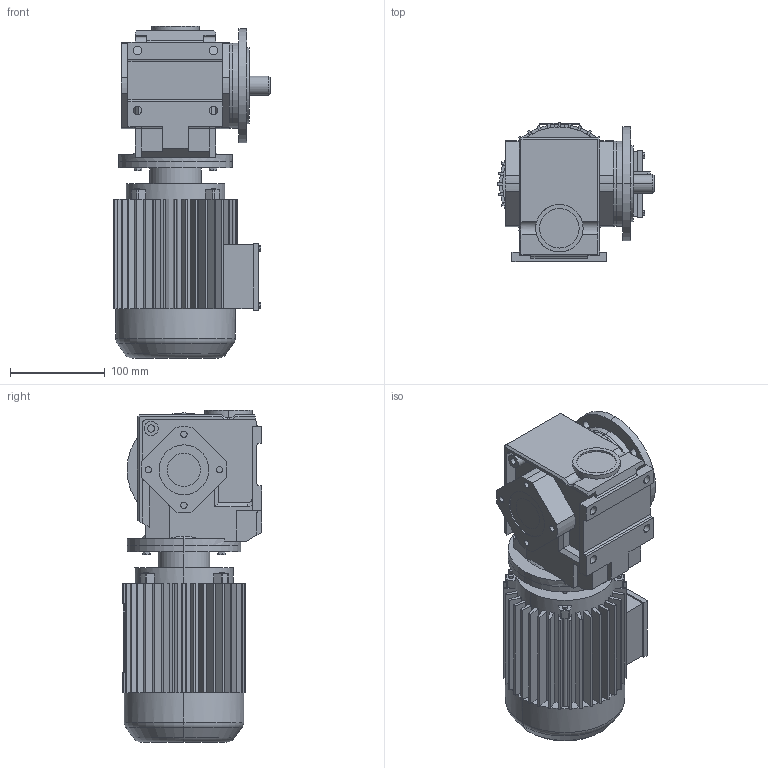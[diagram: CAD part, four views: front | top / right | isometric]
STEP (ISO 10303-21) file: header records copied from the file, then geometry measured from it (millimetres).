
FILE_DESCRIPTION(('Open CASCADE Model'),'2;1');
FILE_NAME('Open CASCADE Shape Model','2021-07-20T10:52:45',('Author'),( 'Open CASCADE'),'Open CASCADE STEP processor 6.3','Open CASCADE 6.3' ,'Unknown');
FILE_SCHEMA(('AUTOMOTIVE_DESIGN_CC2 { 1 2 10303 214 -1 1 5 4 }'));
Length unit declared in the file: millimetre
Products named in the file (5): 1_SF37-Y63S-120-A; SA37_37.step; 萇儂_120_Y63S.step; す瑩妗陑粣S_37_S.step; 楊擘S_37_120_SF.step
Assembly tree (4 placements, depth 2):
  1_SF37-Y63S-120-A
    SA37_37.step
    萇儂_120_Y63S.step
    す瑩妗陑粣S_37_S.step
    楊擘S_37_120_SF.step
Bounding box: 165 x 147 x 350 mm (x, y, z)
Volume: 3843659.7 mm3; surface area: 391378 mm2
Topology: 4 solids, 4 shells, 677 faces, 1762 edges, 1133 vertices
Faces by surface type: plane 445, cylinder 207, cone 21, torus 4
Entity records: 45508 total; most frequent: CARTESIAN_POINT 12142, DIRECTION 5744, ORIENTED_EDGE 3520, PCURVE 3520, DEFINITIONAL_REPRESENTATION 3520, LINE 2932, VECTOR 2932, EDGE_CURVE 1760
